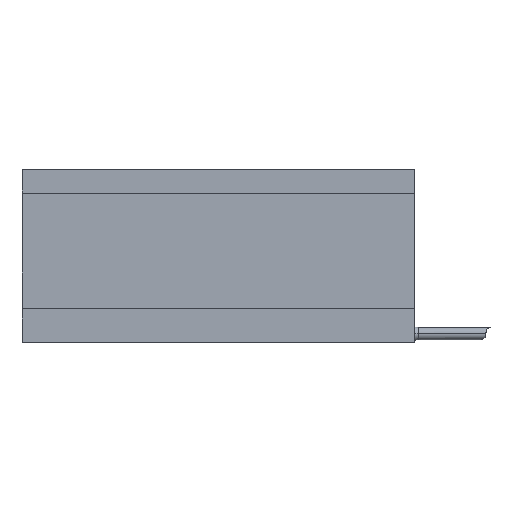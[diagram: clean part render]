
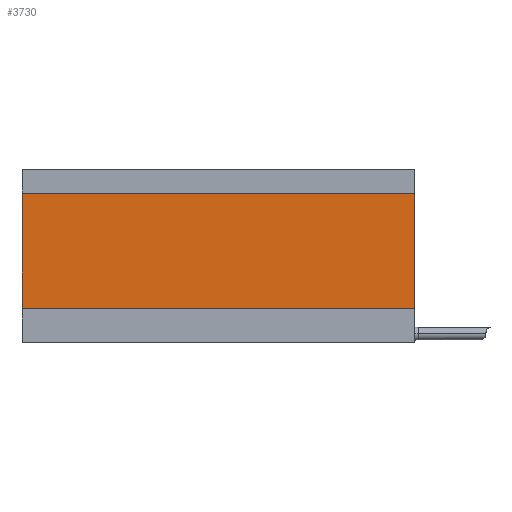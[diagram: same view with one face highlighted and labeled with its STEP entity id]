
A CAD part, top view. The second image highlights one B-rep face of the part: STEP entity #3730.
In plain terms, the highlighted planar face has unit normal (0, 0, 1).
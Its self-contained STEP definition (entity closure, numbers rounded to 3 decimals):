
#151 = DIRECTION ( 'NONE',  ( 0., -1., 0. ) ) ;
#245 = CARTESIAN_POINT ( 'NONE',  ( -84.097, 119.703, 43.079 ) ) ;
#471 = DIRECTION ( 'NONE',  ( 0., 1., 0. ) ) ;
#609 = EDGE_CURVE ( 'NONE', #4119, #1504, #4340, .T. ) ;
#716 = AXIS2_PLACEMENT_3D ( 'NONE', #1430, #2478, #471 ) ;
#817 = LINE ( 'NONE', #3823, #1029 ) ;
#856 = CARTESIAN_POINT ( 'NONE',  ( 96.903, 66.803, 43.079 ) ) ;
#1029 = VECTOR ( 'NONE', #151, 1000. ) ;
#1051 = PLANE ( 'NONE',  #716 ) ;
#1055 = EDGE_LOOP ( 'NONE', ( #3241, #3992, #1206, #2110 ) ) ;
#1101 = EDGE_CURVE ( 'NONE', #3788, #1383, #817, .T. ) ;
#1193 = VECTOR ( 'NONE', #3602, 1000. ) ;
#1206 = ORIENTED_EDGE ( 'NONE', *, *, #1101, .T. ) ;
#1383 = VERTEX_POINT ( 'NONE', #2923 ) ;
#1430 = CARTESIAN_POINT ( 'NONE',  ( -84.097, 66.803, 43.079 ) ) ;
#1504 = VERTEX_POINT ( 'NONE', #1784 ) ;
#1784 = CARTESIAN_POINT ( 'NONE',  ( 96.903, 66.803, 43.079 ) ) ;
#1969 = DIRECTION ( 'NONE',  ( 0., -1., 0. ) ) ;
#2043 = EDGE_CURVE ( 'NONE', #1383, #1504, #3297, .T. ) ;
#2110 = ORIENTED_EDGE ( 'NONE', *, *, #2043, .T. ) ;
#2271 = DIRECTION ( 'NONE',  ( 1., 0., 0. ) ) ;
#2478 = DIRECTION ( 'NONE',  ( 0., 0., -1. ) ) ;
#2760 = EDGE_CURVE ( 'NONE', #3788, #4119, #2845, .T. ) ;
#2845 = LINE ( 'NONE', #245, #1193 ) ;
#2923 = CARTESIAN_POINT ( 'NONE',  ( -84.097, 66.803, 43.079 ) ) ;
#3101 = CARTESIAN_POINT ( 'NONE',  ( -84.097, 119.703, 43.079 ) ) ;
#3241 = ORIENTED_EDGE ( 'NONE', *, *, #609, .F. ) ;
#3289 = VECTOR ( 'NONE', #1969, 1000. ) ;
#3297 = LINE ( 'NONE', #3623, #3800 ) ;
#3602 = DIRECTION ( 'NONE',  ( 1., 0., 0. ) ) ;
#3623 = CARTESIAN_POINT ( 'NONE',  ( -84.097, 66.803, 43.079 ) ) ;
#3730 = ADVANCED_FACE ( 'NONE', ( #4080 ), #1051, .F. ) ;
#3788 = VERTEX_POINT ( 'NONE', #3101 ) ;
#3800 = VECTOR ( 'NONE', #2271, 1000. ) ;
#3823 = CARTESIAN_POINT ( 'NONE',  ( -84.097, 66.803, 43.079 ) ) ;
#3992 = ORIENTED_EDGE ( 'NONE', *, *, #2760, .F. ) ;
#4080 = FACE_OUTER_BOUND ( 'NONE', #1055, .T. ) ;
#4119 = VERTEX_POINT ( 'NONE', #4290 ) ;
#4290 = CARTESIAN_POINT ( 'NONE',  ( 96.903, 119.703, 43.079 ) ) ;
#4340 = LINE ( 'NONE', #856, #3289 ) ;
